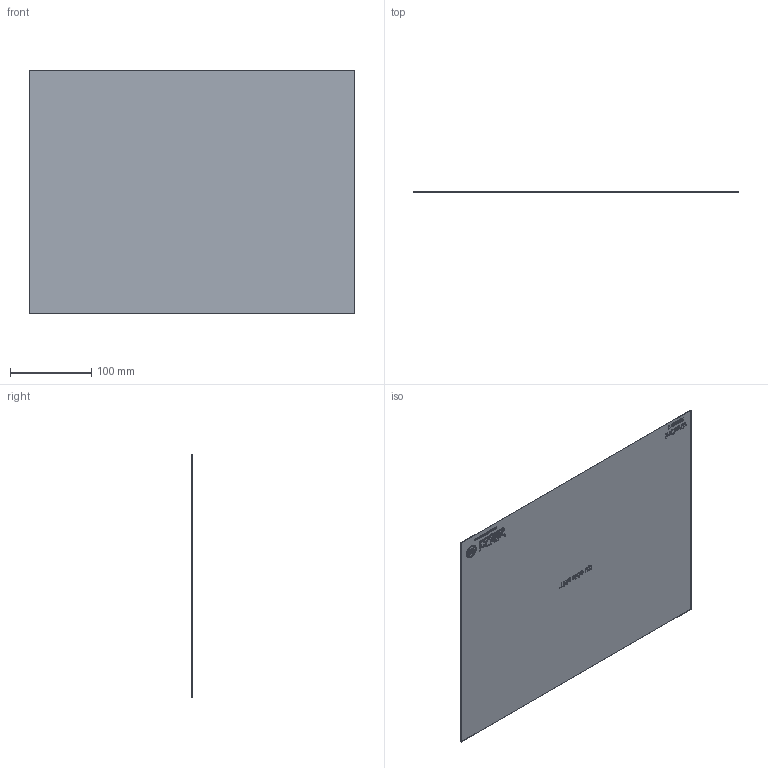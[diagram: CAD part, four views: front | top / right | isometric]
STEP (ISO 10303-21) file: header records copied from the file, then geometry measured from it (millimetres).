
FILE_DESCRIPTION (( 'STEP AP203' ), '1' );
FILE_NAME ('VT00382.STEP', '2016-10-25T09:15:23', ( '' ), ( '' ), 'SwSTEP 2.0', 'SolidWorks 2016', '' );
FILE_SCHEMA (( 'CONFIG_CONTROL_DESIGN' ));
Products named in the file (1): VT00382
Bounding box: 400 x 0.3 x 300 mm (x, y, z)
Volume: 35993.6 mm3; surface area: 240435.5 mm2
Topology: 1 solids, 1 shells, 1114 faces, 2988 edges, 1992 vertices
Faces by surface type: bspline 621, plane 493
Entity records: 52807 total; most frequent: CARTESIAN_POINT 29120, ORIENTED_EDGE 5976, EDGE_CURVE 2988, DIRECTION 2734, VERTEX_POINT 1992, VECTOR 1746, LINE 1746, B_SPLINE_CURVE_WITH_KNOTS 1242
